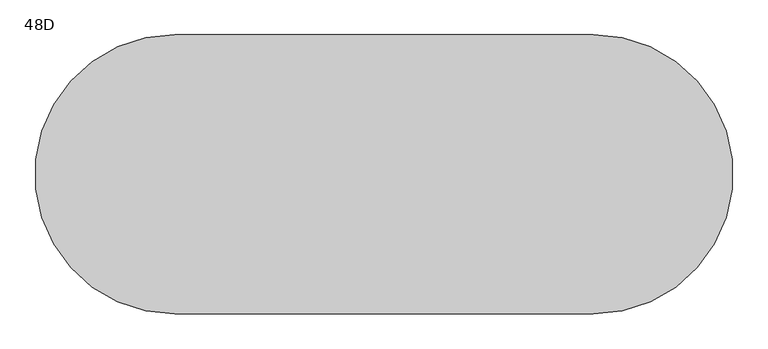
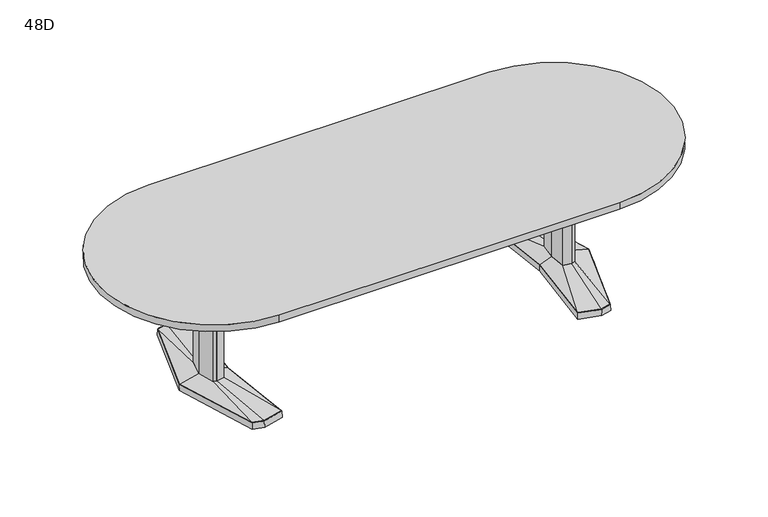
"""IFC4 building model written with IfcOpenShell, lengths in millimetres: furniture geometry, Coalesse_AM_Table_Conference_ETable2_Racetrack_10ft_AluminiumBase : 48D."""

from ifc_helpers import new_model, si_unit, point, frame, frame_2d, origin, place, context, project, spatial, polyline, circle_curve, trimmed, segment, composite_curve, outline, extrude, faceted_brep, source, transform, mapped, element, save
from ifc_brep_helpers import plane_surface, spline_surface, advanced_brep


def furniture_48d_2b6c1770(model_context):
    return source(origin(), model_context, "Body", "SolidModel", [
        faceted_brep([(905.8306835, 455.5848221, 38.1), (796.2531277, 426.2263816, 38.1), (837.4163717, 0.0, 38.1), (796.2531277, -426.2263816, 38.1), (905.8306835, -455.5848221, 38.1), (961.9570396, -440.5478297, 38.1), (1099.2684269, 0.0, 38.1), (961.9570396, 440.5478297, 38.1), (905.8306754, 457.2283104, 3.175), (963.2124472, 441.8549756, 3.175), (1100.93125, 0.0, 3.175), (963.2124472, -441.8549756, 3.175), (905.8306754, -457.2283104, 3.175), (794.54375, -427.4118891, 3.175), (835.8214856, 0.0, 3.175), (794.54375, 427.4118891, 3.175), (909.420115, 428.3273875, 3.175), (804.3718228, 402.1057253, 3.175), (812.490518, 377.985069, 3.175), (913.0095466, 401.0699529, 3.175), (963.5691725, 387.524361, 3.175), (962.7631061, 414.0360954, 3.175), (909.420115, -428.3273875, 3.175), (962.7631061, -414.0360954, 3.175), (963.5691725, -387.524361, 3.175), (913.0095466, -401.0699529, 3.175), (812.490518, -377.985069, 3.175), (804.3718228, -402.1057253, 3.175), (1036.0153621, 0.0, 3.175), (1003.7459611, 120.4193755, 3.175), (955.0987222, 133.471665, 3.175), (875.2180526, 119.4176561, 3.175), (864.0868466, 0.0, 3.175), (875.2180526, -119.4176561, 3.175), (955.0987222, -133.471665, 3.175), (1003.7459611, -120.4193755, 3.175), (909.420115, 428.3273875, 0.0), (962.7631061, 414.0360954, 0.0), (963.5691725, 387.524361, 0.0), (913.0095466, 401.0699529, 0.0), (812.490518, 377.985069, 0.0), (804.3718228, 402.1057253, 0.0), (909.420115, -428.3273875, 0.0), (804.3718228, -402.1057253, 0.0), (812.490518, -377.985069, 0.0), (913.0095466, -401.0699529, 0.0), (963.5691725, -387.524361, 0.0), (962.7631061, -414.0360954, 0.0), (1036.0153621, 0.0, 0.0), (1003.7459611, -120.4193755, 0.0), (955.0987222, -133.471665, 0.0), (875.2180526, -119.4176561, 0.0), (864.0868466, 0.0, 0.0), (875.2180526, 119.4176561, 0.0), (955.0987222, 133.471665, 0.0), (1003.7459611, 120.4193755, 0.0)], [[[0, 1, 2, 3, 4, 5, 6, 7]], [[8, 9, 10, 11, 12, 13, 14, 15], [16, 17, 18, 19, 20, 21], [22, 23, 24, 25, 26, 27], [28, 29, 30, 31, 32, 33, 34, 35]], [[7, 9, 8, 0]], [[6, 10, 9, 7]], [[5, 11, 10, 6]], [[4, 12, 11, 5]], [[3, 13, 12, 4]], [[2, 14, 13, 3]], [[1, 15, 14, 2]], [[0, 8, 15, 1]], [[36, 37, 38, 39, 40, 41]], [[42, 43, 44, 45, 46, 47]], [[48, 49, 50, 51, 52, 53, 54, 55]], [[36, 16, 21, 37]], [[37, 21, 20, 38]], [[38, 20, 19, 39]], [[39, 19, 18, 40]], [[40, 18, 17, 41]], [[41, 17, 16, 36]], [[42, 22, 27, 43]], [[43, 27, 26, 44]], [[44, 26, 25, 45]], [[45, 25, 24, 46]], [[46, 24, 23, 47]], [[47, 23, 22, 42]], [[48, 28, 35, 49]], [[49, 35, 34, 50]], [[50, 34, 33, 51]], [[51, 33, 32, 52]], [[52, 32, 31, 53]], [[53, 31, 30, 54]], [[54, 30, 29, 55]], [[55, 29, 28, 48]]]),
        faceted_brep([(996.5710836, 0.0, 698.5), (972.6358546, 89.3188359, 698.5), (955.7824984, 93.8406728, 698.5), (953.3826511, 94.4845635, 698.5), (910.455146, 86.9320037, 698.5), (902.3520056, 0.0, 698.5), (910.455146, -86.9320037, 698.5), (953.3826511, -94.4845635, 698.5), (955.7824984, -93.8406728, 698.5), (972.6358546, -89.3188359, 698.5), (996.5710836, 0.0, 63.5), (972.6358546, -89.3188359, 63.5), (955.7824984, -93.8406728, 63.5), (953.3826511, -94.4845635, 63.5), (910.455146, -86.9320037, 63.5), (902.3520056, 0.0, 63.5), (910.455146, 86.9320037, 63.5), (953.3826511, 94.4845635, 63.5), (955.7824984, 93.8406728, 63.5), (972.6358546, 89.3188359, 63.5)], [[[0, 1, 2, 3, 4, 5, 6, 7, 8, 9]], [[10, 11, 12, 13, 14, 15, 16, 17, 18, 19]], [[9, 11, 10, 0]], [[8, 12, 11, 9]], [[7, 13, 12, 8]], [[6, 14, 13, 7]], [[5, 15, 14, 6]], [[4, 16, 15, 5]], [[3, 17, 16, 4]], [[2, 18, 17, 3]], [[1, 19, 18, 2]], [[0, 10, 19, 1]]]),
        advanced_brep(
        [(953.3826511, 94.4845635, 63.5), (910.455146, 86.9320037, 63.5), (902.3520056, 0.0, 63.5), (910.455146, -86.9320037, 63.5), (953.3826511, -94.4845635, 63.5), (972.6358546, -89.3188359, 63.5), (996.5710836, 0.0, 63.5), (972.6358546, 89.3188359, 63.5), (905.8306835, 455.5848221, 38.1), (961.9570396, 440.5478297, 38.1), (1099.2684269, 0.0, 38.1), (961.9570396, -440.5478297, 38.1), (905.8306835, -455.5848221, 38.1), (796.2531277, -426.2263816, 38.1), (837.4163717, 0.0, 38.1), (796.2531277, 426.2263816, 38.1)],
        [
            (0, 1),
            (1, 2),
            (2, 3),
            (3, 4),
            (4, 5),
            (5, 6),
            (6, 7),
            (7, 0),
            (8, 9),
            (9, 10),
            (10, 11),
            (11, 12),
            (12, 13),
            (13, 14),
            (14, 15),
            (15, 8),
            (8, 0),
            (7, 9),
            (6, 10),
            (5, 11),
            (4, 12),
            (3, 13),
            (2, 14),
            (1, 15),
        ],
        [
            plane_surface(frame((946.4837991, 0.0, 63.5), z_axis=(0.0, 0.0, 1.0), x_axis=(-0.25884244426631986, -0.9659195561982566, 0.0))),
            plane_surface(frame((908.0958125, 0.0, 38.1), z_axis=(0.0, 0.0, -1.0), x_axis=(-0.25884244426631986, -0.9659195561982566, 0.0))),
            spline_surface(1, 1, [[(905.8306835, 455.5848221, 38.1), (961.9570396, 440.5478297, 38.1)], [(953.3826511, 94.4845635, 63.5), (972.6358546, 89.3188359, 63.5)]], [2, 2], [2, 2], [0.0, 1.0], [0.0, 1.0]),
            spline_surface(1, 1, [[(961.9570396, 440.5478297, 38.1), (1099.2684269, 0.0, 38.1)], [(972.6358546, 89.3188359, 63.5), (996.5710836, 0.0, 63.5)]], [2, 2], [2, 2], [0.0, 1.0], [0.0, 1.0]),
            spline_surface(1, 1, [[(1099.2684269, 0.0, 38.1), (961.9570396, -440.5478297, 38.1)], [(996.5710836, 0.0, 63.5), (972.6358546, -89.3188359, 63.5)]], [2, 2], [2, 2], [0.0, 1.0], [0.0, 1.0]),
            spline_surface(1, 1, [[(961.9570396, -440.5478297, 38.1), (905.8306835, -455.5848221, 38.1)], [(972.6358546, -89.3188359, 63.5), (953.3826511, -94.4845635, 63.5)]], [2, 2], [2, 2], [0.0, 1.0], [0.0, 1.0]),
            spline_surface(1, 1, [[(905.8306835, -455.5848221, 38.1), (796.2531277, -426.2263816, 38.1)], [(953.3826511, -94.4845635, 63.5), (910.455146, -86.9320037, 63.5)]], [2, 2], [2, 2], [0.0, 1.0], [0.0, 1.0]),
            spline_surface(1, 1, [[(796.2531277, -426.2263816, 38.1), (837.4163717, 0.0, 38.1)], [(910.455146, -86.9320037, 63.5), (902.3520056, 0.0, 63.5)]], [2, 2], [2, 2], [0.0, 1.0], [0.0, 1.0]),
            spline_surface(1, 1, [[(837.4163717, 0.0, 38.1), (796.2531277, 426.2263816, 38.1)], [(902.3520056, 0.0, 63.5), (910.455146, 86.9320037, 63.5)]], [2, 2], [2, 2], [0.0, 1.0], [0.0, 1.0]),
            spline_surface(1, 1, [[(796.2531277, 426.2263816, 38.1), (905.8306835, 455.5848221, 38.1)], [(910.455146, 86.9320037, 63.5), (953.3826511, 94.4845635, 63.5)]], [2, 2], [2, 2], [0.0, 1.0], [0.0, 1.0]),
        ],
        [
            (0, [[1, 2, 3, 4, 5, 6, 7, 8]]),
            (1, [[9, 10, 11, 12, 13, 14, 15, 16]]),
            (2, [[17, -8, 18, -9]]),
            (3, [[-18, -7, 19, -10]]),
            (4, [[-19, -6, 20, -11]]),
            (5, [[-20, -5, 21, -12]]),
            (6, [[-21, -4, 22, -13]]),
            (7, [[-22, -3, 23, -14]]),
            (8, [[-23, -2, 24, -15]]),
            (9, [[-24, -1, -17, -16]]),
        ],
    ),
        faceted_brep([(-905.8306835, 455.5848221, 38.1), (-961.9570396, 440.5478297, 38.1), (-1099.2684269, 0.0, 38.1), (-961.9570396, -440.5478297, 38.1), (-905.8306835, -455.5848221, 38.1), (-796.2531277, -426.2263816, 38.1), (-837.4163717, 0.0, 38.1), (-796.2531277, 426.2263816, 38.1), (-905.8306754, 457.2283104, 3.175), (-794.54375, 427.4118891, 3.175), (-835.8214856, 0.0, 3.175), (-794.54375, -427.4118891, 3.175), (-905.8306754, -457.2283104, 3.175), (-963.2124472, -441.8549756, 3.175), (-1100.93125, 0.0, 3.175), (-963.2124472, 441.8549756, 3.175), (-909.420115, 428.3273875, 3.175), (-962.7631061, 414.0360954, 3.175), (-963.5691725, 387.524361, 3.175), (-913.0095466, 401.0699529, 3.175), (-812.490518, 377.985069, 3.175), (-804.3718228, 402.1057253, 3.175), (-909.420115, -428.3273875, 3.175), (-804.3718228, -402.1057253, 3.175), (-812.490518, -377.985069, 3.175), (-913.0095466, -401.0699529, 3.175), (-963.5691725, -387.524361, 3.175), (-962.7631061, -414.0360954, 3.175), (-1036.0153621, 0.0, 3.175), (-1003.7459611, -120.4193755, 3.175), (-955.0987222, -133.471665, 3.175), (-875.2180526, -119.4176561, 3.175), (-864.0868466, 0.0, 3.175), (-875.2180526, 119.4176561, 3.175), (-955.0987222, 133.471665, 3.175), (-1003.7459611, 120.4193755, 3.175), (-909.420115, 428.3273875, 0.0), (-804.3718228, 402.1057253, 0.0), (-812.490518, 377.985069, 0.0), (-913.0095466, 401.0699529, 0.0), (-963.5691725, 387.524361, 0.0), (-962.7631061, 414.0360954, 0.0), (-909.420115, -428.3273875, 0.0), (-962.7631061, -414.0360954, 0.0), (-963.5691725, -387.524361, 0.0), (-913.0095466, -401.0699529, 0.0), (-812.490518, -377.985069, 0.0), (-804.3718228, -402.1057253, 0.0), (-1036.0153621, 0.0, 0.0), (-1003.7459611, 120.4193755, 0.0), (-955.0987222, 133.471665, 0.0), (-875.2180526, 119.4176561, 0.0), (-864.0868466, 0.0, 0.0), (-875.2180526, -119.4176561, 0.0), (-955.0987222, -133.471665, 0.0), (-1003.7459611, -120.4193755, 0.0)], [[[0, 1, 2, 3, 4, 5, 6, 7]], [[8, 9, 10, 11, 12, 13, 14, 15], [16, 17, 18, 19, 20, 21], [22, 23, 24, 25, 26, 27], [28, 29, 30, 31, 32, 33, 34, 35]], [[1, 0, 8, 15]], [[2, 1, 15, 14]], [[3, 2, 14, 13]], [[4, 3, 13, 12]], [[5, 4, 12, 11]], [[6, 5, 11, 10]], [[7, 6, 10, 9]], [[0, 7, 9, 8]], [[36, 37, 38, 39, 40, 41]], [[42, 43, 44, 45, 46, 47]], [[48, 49, 50, 51, 52, 53, 54, 55]], [[36, 41, 17, 16]], [[41, 40, 18, 17]], [[40, 39, 19, 18]], [[39, 38, 20, 19]], [[38, 37, 21, 20]], [[37, 36, 16, 21]], [[42, 47, 23, 22]], [[47, 46, 24, 23]], [[46, 45, 25, 24]], [[45, 44, 26, 25]], [[44, 43, 27, 26]], [[43, 42, 22, 27]], [[48, 55, 29, 28]], [[55, 54, 30, 29]], [[54, 53, 31, 30]], [[53, 52, 32, 31]], [[52, 51, 33, 32]], [[51, 50, 34, 33]], [[50, 49, 35, 34]], [[49, 48, 28, 35]]]),
        faceted_brep([(-996.5710836, 0.0, 698.5), (-972.6358546, -89.3188359, 698.5), (-955.7824984, -93.8406728, 698.5), (-953.3826511, -94.4845635, 698.5), (-910.455146, -86.9320037, 698.5), (-902.3520056, 0.0, 698.5), (-910.455146, 86.9320037, 698.5), (-953.3826511, 94.4845635, 698.5), (-955.7824984, 93.8406728, 698.5), (-972.6358546, 89.3188359, 698.5), (-996.5710836, 0.0, 63.5), (-972.6358546, 89.3188359, 63.5), (-955.7824984, 93.8406728, 63.5), (-953.3826511, 94.4845635, 63.5), (-910.455146, 86.9320037, 63.5), (-902.3520056, 0.0, 63.5), (-910.455146, -86.9320037, 63.5), (-953.3826511, -94.4845635, 63.5), (-955.7824984, -93.8406728, 63.5), (-972.6358546, -89.3188359, 63.5)], [[[0, 1, 2, 3, 4, 5, 6, 7, 8, 9]], [[10, 11, 12, 13, 14, 15, 16, 17, 18, 19]], [[1, 0, 10, 19]], [[2, 1, 19, 18]], [[3, 2, 18, 17]], [[4, 3, 17, 16]], [[5, 4, 16, 15]], [[6, 5, 15, 14]], [[7, 6, 14, 13]], [[8, 7, 13, 12]], [[9, 8, 12, 11]], [[0, 9, 11, 10]]]),
        advanced_brep(
        [(-953.3826511, 94.4845635, 63.5), (-972.6358546, 89.3188359, 63.5), (-996.5710836, 0.0, 63.5), (-972.6358546, -89.3188359, 63.5), (-953.3826511, -94.4845635, 63.5), (-910.455146, -86.9320037, 63.5), (-902.3520056, 0.0, 63.5), (-910.455146, 86.9320037, 63.5), (-905.8306835, 455.5848221, 38.1), (-796.2531277, 426.2263816, 38.1), (-837.4163717, 0.0, 38.1), (-796.2531277, -426.2263816, 38.1), (-905.8306835, -455.5848221, 38.1), (-961.9570396, -440.5478297, 38.1), (-1099.2684269, 0.0, 38.1), (-961.9570396, 440.5478297, 38.1)],
        [
            (0, 1),
            (1, 2),
            (2, 3),
            (3, 4),
            (4, 5),
            (5, 6),
            (6, 7),
            (7, 0),
            (8, 9),
            (9, 10),
            (10, 11),
            (11, 12),
            (12, 13),
            (13, 14),
            (14, 15),
            (15, 8),
            (15, 1),
            (0, 8),
            (14, 2),
            (13, 3),
            (12, 4),
            (11, 5),
            (10, 6),
            (9, 7),
        ],
        [
            plane_surface(frame((-946.4837991, 0.0, 63.5), z_axis=(0.0, 0.0, 1.0), x_axis=(0.25884244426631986, -0.9659195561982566, 0.0))),
            plane_surface(frame((-908.0958125, 0.0, 38.1), z_axis=(0.0, 0.0, -1.0), x_axis=(0.25884244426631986, -0.9659195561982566, 0.0))),
            spline_surface(1, 1, [[(-905.8306835, 455.5848221, 38.1), (-953.3826511, 94.4845635, 63.5)], [(-961.9570396, 440.5478297, 38.1), (-972.6358546, 89.3188359, 63.5)]], [2, 2], [2, 2], [0.0, 1.0], [0.0, 1.0]),
            spline_surface(1, 1, [[(-961.9570396, 440.5478297, 38.1), (-972.6358546, 89.3188359, 63.5)], [(-1099.2684269, 0.0, 38.1), (-996.5710836, 0.0, 63.5)]], [2, 2], [2, 2], [0.0, 1.0], [0.0, 1.0]),
            spline_surface(1, 1, [[(-1099.2684269, 0.0, 38.1), (-996.5710836, 0.0, 63.5)], [(-961.9570396, -440.5478297, 38.1), (-972.6358546, -89.3188359, 63.5)]], [2, 2], [2, 2], [0.0, 1.0], [0.0, 1.0]),
            spline_surface(1, 1, [[(-961.9570396, -440.5478297, 38.1), (-972.6358546, -89.3188359, 63.5)], [(-905.8306835, -455.5848221, 38.1), (-953.3826511, -94.4845635, 63.5)]], [2, 2], [2, 2], [0.0, 1.0], [0.0, 1.0]),
            spline_surface(1, 1, [[(-905.8306835, -455.5848221, 38.1), (-953.3826511, -94.4845635, 63.5)], [(-796.2531277, -426.2263816, 38.1), (-910.455146, -86.9320037, 63.5)]], [2, 2], [2, 2], [0.0, 1.0], [0.0, 1.0]),
            spline_surface(1, 1, [[(-796.2531277, -426.2263816, 38.1), (-910.455146, -86.9320037, 63.5)], [(-837.4163717, 0.0, 38.1), (-902.3520056, 0.0, 63.5)]], [2, 2], [2, 2], [0.0, 1.0], [0.0, 1.0]),
            spline_surface(1, 1, [[(-837.4163717, 0.0, 38.1), (-902.3520056, 0.0, 63.5)], [(-796.2531277, 426.2263816, 38.1), (-910.455146, 86.9320037, 63.5)]], [2, 2], [2, 2], [0.0, 1.0], [0.0, 1.0]),
            spline_surface(1, 1, [[(-796.2531277, 426.2263816, 38.1), (-910.455146, 86.9320037, 63.5)], [(-905.8306835, 455.5848221, 38.1), (-953.3826511, 94.4845635, 63.5)]], [2, 2], [2, 2], [0.0, 1.0], [0.0, 1.0]),
        ],
        [
            (0, [[1, 2, 3, 4, 5, 6, 7, 8]]),
            (1, [[9, 10, 11, 12, 13, 14, 15, 16]]),
            (2, [[-16, 17, -1, 18]]),
            (3, [[-15, 19, -2, -17]]),
            (4, [[-14, 20, -3, -19]]),
            (5, [[-13, 21, -4, -20]]),
            (6, [[-12, 22, -5, -21]]),
            (7, [[-11, 23, -6, -22]]),
            (8, [[-10, 24, -7, -23]]),
            (9, [[-9, -18, -8, -24]]),
        ],
    ),
        extrude(outline(polyline([(96.8375, 698.5), (103.1875, 698.5), (103.1875, 476.25), (-103.1875, 476.25), (-103.1875, 698.5), (-96.8375, 698.5), (-96.8375, 482.6), (96.8375, 482.6), (96.8375, 698.5)])), frame((-902.49375, 0.0, 0.0), z_axis=(1.0, 0.0, 0.0), x_axis=(0.0, 1.0, 0.0)), (0.0, 0.0, 1.0), 1804.9875),
        extrude(outline(composite_curve([segment(trimmed(circle_curve(frame_2d((-914.4, 0.0)), 609.6), [point((-914.4, -609.6))], [point((-914.4, 609.6))], False, "CARTESIAN"), True, "CONTINUOUS"), segment(polyline([(-914.4, 609.6), (914.4, 609.6)]), True, "CONTINUOUS"), segment(trimmed(circle_curve(frame_2d((914.4, 0.0)), 609.6), [point((914.4, 609.6))], [point((914.4, -609.6))], False, "CARTESIAN"), True, "CONTINUOUS"), segment(polyline([(914.4, -609.6), (-914.4, -609.6)]), True, "CONTINUOUS")], self_intersect=False)), frame((0.0, 0.0, 698.5), z_axis=(0.0, 0.0, 1.0), x_axis=(1.0, 0.0, 0.0)), (0.0, 0.0, 1.0), 38.1),
    ])


if __name__ == "__main__":
    model = new_model("IFC4")
    model_context = context("Model", 3, world=origin())
    ifc_project = project(units=[si_unit("LENGTHUNIT", "METRE", prefix="MILLI")], contexts=[model_context])
    site = spatial("IfcSite", under=ifc_project)
    building = spatial("IfcBuilding", under=site)
    placement = place(None, origin())
    furniture_48d_shape = furniture_48d_2b6c1770(model_context)
    element("IfcFurniture", 1, ObjectType="Coalesse_AM_Table_Conference_ETable2_Racetrack_10ft_AluminiumBase : 48D", at=placement, inside=building, context=model_context, shape_type="MappedRepresentation", body=[
        mapped(furniture_48d_shape, transform((0.0, 0.0, 0.0), x_axis=(1.0, 0.0, 0.0), y_axis=(0.0, 1.0, 0.0), z_axis=(0.0, 0.0, 1.0))),
    ])
    save(model, "model.ifc")
